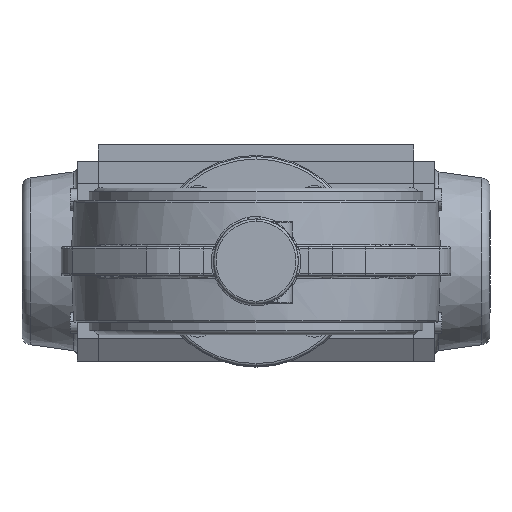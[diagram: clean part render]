
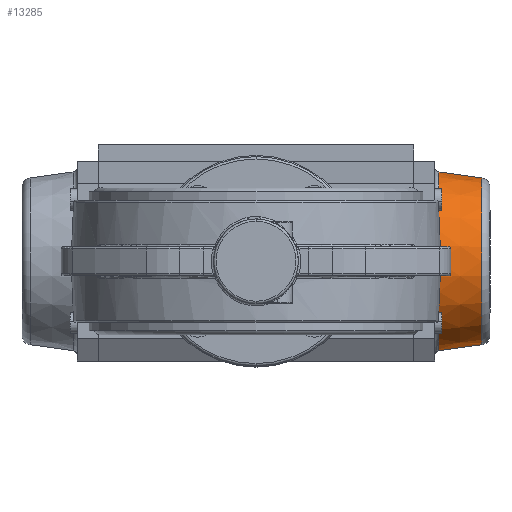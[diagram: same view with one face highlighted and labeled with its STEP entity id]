
A CAD part, front view. The second image highlights one B-rep face of the part: STEP entity #13285.
In plain terms, the highlighted conical face has half-angle 7.893 degrees and reference radius 38.019 mm.
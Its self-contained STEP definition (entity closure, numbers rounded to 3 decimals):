
#1513 = CARTESIAN_POINT ( 'NONE',  ( -38.019, 0., -77.725 ) ) ;
#1891 = LINE ( 'NONE', #15230, #12621 ) ;
#5536 = CIRCLE ( 'NONE', #37482, 38.019 ) ;
#6140 = VERTEX_POINT ( 'NONE', #16971 ) ;
#6617 = CARTESIAN_POINT ( 'NONE',  ( 0., 0., -77.725 ) ) ;
#6941 = DIRECTION ( 'NONE',  ( 0., 0., -1. ) ) ;
#7344 = LINE ( 'NONE', #33617, #16794 ) ;
#10503 = CONICAL_SURFACE ( 'NONE', #44830, 38.019, 0.138 ) ;
#10803 = EDGE_LOOP ( 'NONE', ( #35713, #47438, #32194, #16238 ) ) ;
#12621 = VECTOR ( 'NONE', #47559, 1000. ) ;
#13285 = ADVANCED_FACE ( 'NONE', ( #35790 ), #10503, .T. ) ;
#15230 = CARTESIAN_POINT ( 'NONE',  ( 38.019, 0., -77.725 ) ) ;
#16238 = ORIENTED_EDGE ( 'NONE', *, *, #34582, .F. ) ;
#16794 = VECTOR ( 'NONE', #25687, 1000. ) ;
#16971 = CARTESIAN_POINT ( 'NONE',  ( 38.019, 0., -77.725 ) ) ;
#17162 = EDGE_CURVE ( 'NONE', #46959, #23888, #48118, .T. ) ;
#19822 = DIRECTION ( 'NONE',  ( 0., 0., -1. ) ) ;
#22641 = EDGE_CURVE ( 'NONE', #6140, #40504, #5536, .T. ) ;
#23888 = VERTEX_POINT ( 'NONE', #49306 ) ;
#25687 = DIRECTION ( 'NONE',  ( -0.137, 0., 0.991 ) ) ;
#26922 = DIRECTION ( 'NONE',  ( -1., 0., 0. ) ) ;
#27005 = EDGE_CURVE ( 'NONE', #46959, #6140, #1891, .T. ) ;
#31118 = CARTESIAN_POINT ( 'NONE',  ( 0., 0., -77.725 ) ) ;
#32194 = ORIENTED_EDGE ( 'NONE', *, *, #22641, .T. ) ;
#32722 = CARTESIAN_POINT ( 'NONE',  ( 35.478, 0., -96.049 ) ) ;
#33617 = CARTESIAN_POINT ( 'NONE',  ( -38.019, 0., -77.725 ) ) ;
#34582 = EDGE_CURVE ( 'NONE', #23888, #40504, #7344, .T. ) ;
#34860 = DIRECTION ( 'NONE',  ( 0., 0., 1. ) ) ;
#35166 = DIRECTION ( 'NONE',  ( -1., 0., 0. ) ) ;
#35713 = ORIENTED_EDGE ( 'NONE', *, *, #17162, .F. ) ;
#35790 = FACE_OUTER_BOUND ( 'NONE', #10803, .T. ) ;
#37482 = AXIS2_PLACEMENT_3D ( 'NONE', #31118, #6941, #35166 ) ;
#40504 = VERTEX_POINT ( 'NONE', #1513 ) ;
#42613 = AXIS2_PLACEMENT_3D ( 'NONE', #44011, #19822, #48111 ) ;
#44011 = CARTESIAN_POINT ( 'NONE',  ( 0., 0., -96.049 ) ) ;
#44830 = AXIS2_PLACEMENT_3D ( 'NONE', #6617, #34860, #26922 ) ;
#46959 = VERTEX_POINT ( 'NONE', #32722 ) ;
#47438 = ORIENTED_EDGE ( 'NONE', *, *, #27005, .T. ) ;
#47559 = DIRECTION ( 'NONE',  ( 0.137, 0., 0.991 ) ) ;
#48111 = DIRECTION ( 'NONE',  ( -1., 0., 0. ) ) ;
#48118 = CIRCLE ( 'NONE', #42613, 35.478 ) ;
#49306 = CARTESIAN_POINT ( 'NONE',  ( -35.478, 0., -96.049 ) ) ;
